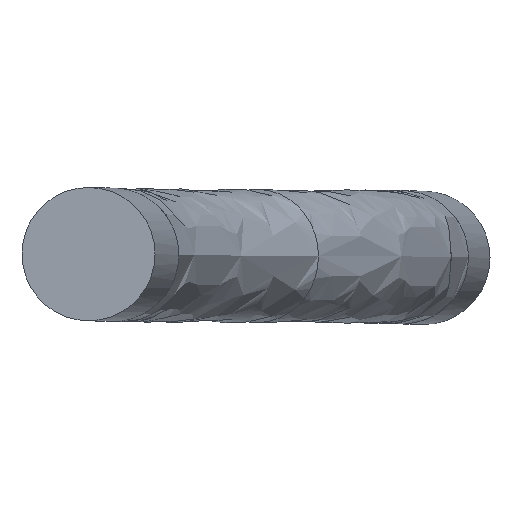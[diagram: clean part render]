
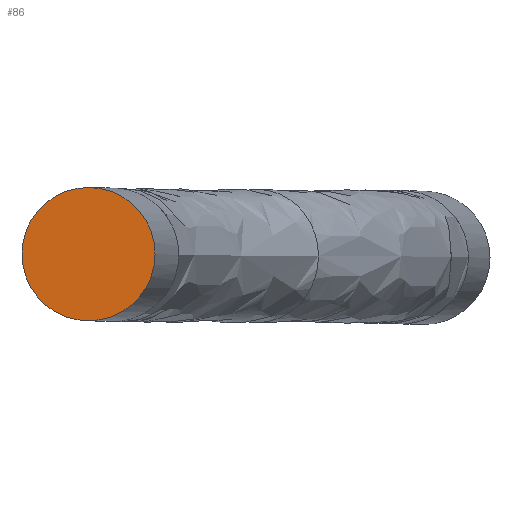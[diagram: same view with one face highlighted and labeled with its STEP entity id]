
A CAD part, top view. The second image highlights one B-rep face of the part: STEP entity #86.
In plain terms, the highlighted planar face has unit normal (-0.066, 0, 0.998).
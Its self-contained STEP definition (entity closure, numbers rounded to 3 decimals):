
#21=PLANE('',#106);
#26=CIRCLE('',#104,1.48);
#40=ORIENTED_EDGE('',*,*,#47,.F.);
#47=EDGE_CURVE('',#54,#54,#26,.F.);
#54=VERTEX_POINT('',#415);
#68=EDGE_LOOP('',(#40));
#78=FACE_BOUND('',#68,.T.);
#86=ADVANCED_FACE('',(#78),#21,.T.);
#104=AXIS2_PLACEMENT_3D('',#414,#117,#118);
#106=AXIS2_PLACEMENT_3D('',#417,#121,#122);
#117=DIRECTION('',(-0.066,0.,0.998));
#118=DIRECTION('',(0.998,0.,0.066));
#121=DIRECTION('',(-0.066,0.,0.998));
#122=DIRECTION('',(0.998,0.,0.066));
#414=CARTESIAN_POINT('',(-17.18,0.,47.019));
#415=CARTESIAN_POINT('',(-15.703,0.,47.116));
#417=CARTESIAN_POINT('',(-17.18,0.,47.019));
